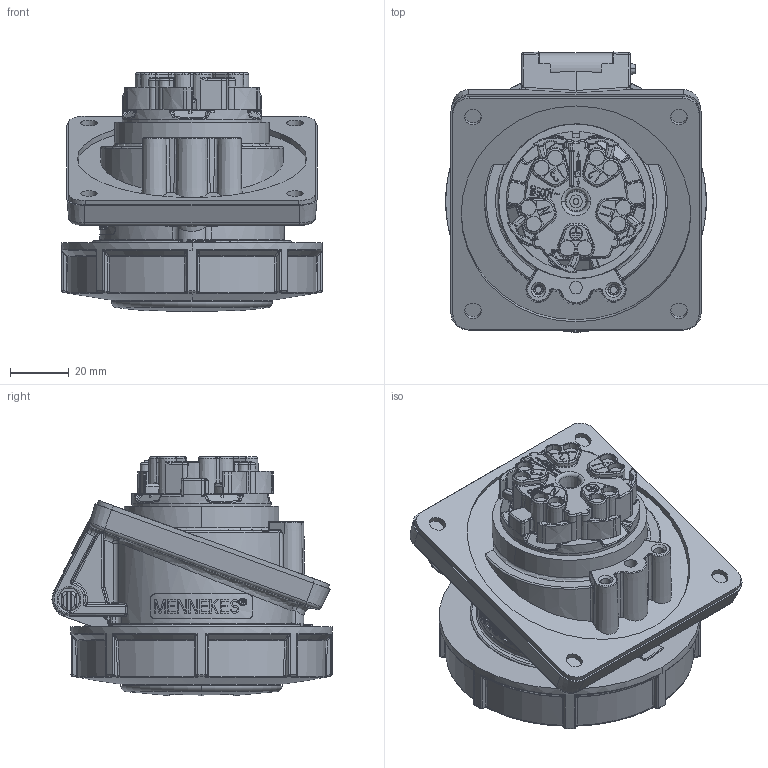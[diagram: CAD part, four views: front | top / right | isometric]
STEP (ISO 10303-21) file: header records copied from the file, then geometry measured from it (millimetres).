
FILE_DESCRIPTION((''),'2;1');
FILE_NAME('1173_SW0001','2017-09-27T',('gisse'),('MENNEKES'),'PRO/ENGINEER BY PARAMETRIC TECHNOLOGY CORPORATION, 2015440','PRO/ENGINEER BY PARAMETRIC TECHNOLOGY CORPORATION, 2015440','');
FILE_SCHEMA(('AUTOMOTIVE_DESIGN { 1 0 10303 214 1 1 1 1 }'));
Products named in the file (1): 1173_SW0001
Bounding box: 88.7 x 95.15 x 81.27 mm (x, y, z)
Volume: 299915.5 mm3; surface area: 46914.5 mm2
Topology: 1 solids, 1 shells, 2639 faces, 6763 edges, 4174 vertices
Faces by surface type: plane 1209, cylinder 490, bspline 432, torus 278, cone 149, sphere 75, extrusion 6
Entity records: 134478 total; most frequent: CARTESIAN_POINT 36973, ORIENTED_EDGE 13494, DIRECTION 11372, PRESENTATION_STYLE_ASSIGNMENT 8133, STYLED_ITEM 6754, CURVE_STYLE 6753, EDGE_CURVE 6747, VERTEX_POINT 4174
